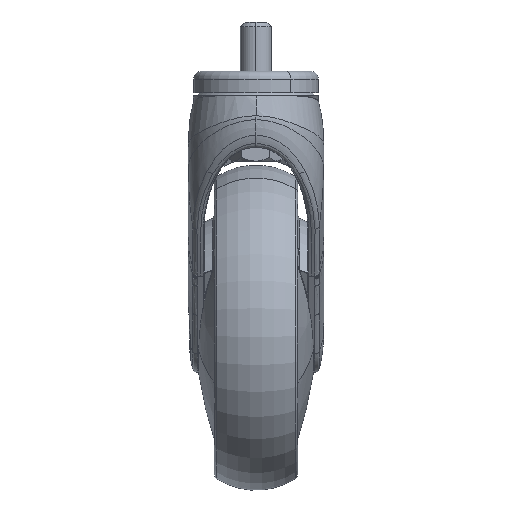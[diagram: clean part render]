
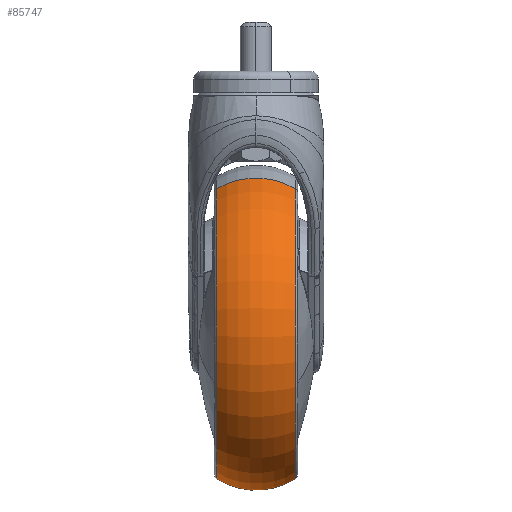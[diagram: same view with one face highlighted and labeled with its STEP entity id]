
A CAD part, left-side view. The second image highlights one B-rep face of the part: STEP entity #85747.
In plain terms, the highlighted toroidal (fillet/blend) face has major radius 34.5 mm and minor radius 28 mm.
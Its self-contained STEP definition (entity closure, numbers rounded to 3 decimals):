
#3506 = VERTEX_POINT ( 'NONE', #27585 ) ;
#3548 = EDGE_CURVE ( 'NONE', #3690, #3641, #27769, .T. ) ;
#3569 = EDGE_CURVE ( 'NONE', #3506, #3791, #27897, .T. ) ;
#3641 = VERTEX_POINT ( 'NONE', #27927 ) ;
#3690 = VERTEX_POINT ( 'NONE', #28011 ) ;
#3791 = VERTEX_POINT ( 'NONE', #28321 ) ;
#3796 = EDGE_CURVE ( 'NONE', #3690, #3506, #28442, .T. ) ;
#27585 = CARTESIAN_POINT ( 'NONE',  ( 54.541, 22.731, -100.503 ) ) ;
#27761 = AXIS2_PLACEMENT_3D ( 'NONE', #27905, #27892, #27890 ) ;
#27769 = CIRCLE ( 'NONE', #27761, 28. ) ;
#27850 = DIRECTION ( 'NONE',  ( -0.394, 0., 0.919 ) ) ;
#27852 = DIRECTION ( 'NONE',  ( -0.919, 0., -0.394 ) ) ;
#27854 = AXIS2_PLACEMENT_3D ( 'NONE', #27872, #27852, #27850 ) ;
#27872 = CARTESIAN_POINT ( 'NONE',  ( 45.246, 7.654, -78.817 ) ) ;
#27890 = DIRECTION ( 'NONE',  ( 0.394, 0., -0.919 ) ) ;
#27892 = DIRECTION ( 'NONE',  ( 0.919, 0., 0.394 ) ) ;
#27897 = CIRCLE ( 'NONE', #27854, 28. ) ;
#27905 = CARTESIAN_POINT ( 'NONE',  ( 18.063, 7.654, -15.397 ) ) ;
#27927 = CARTESIAN_POINT ( 'NONE',  ( 8.768, -7.423, 6.289 ) ) ;
#28011 = CARTESIAN_POINT ( 'NONE',  ( 8.768, 22.731, 6.289 ) ) ;
#28321 = CARTESIAN_POINT ( 'NONE',  ( 54.541, -7.423, -100.503 ) ) ;
#28431 = DIRECTION ( 'NONE',  ( 0.394, 0., -0.919 ) ) ;
#28433 = DIRECTION ( 'NONE',  ( 0., -1., 0. ) ) ;
#28434 = CARTESIAN_POINT ( 'NONE',  ( 31.655, 22.731, -47.107 ) ) ;
#28436 = AXIS2_PLACEMENT_3D ( 'NONE', #28434, #28433, #28431 ) ;
#28442 = CIRCLE ( 'NONE', #28436, 58.094 ) ;
#44835 = DIRECTION ( 'NONE',  ( 0.394, 0., -0.919 ) ) ;
#44837 = DIRECTION ( 'NONE',  ( 0., -1., 0. ) ) ;
#44839 = CARTESIAN_POINT ( 'NONE',  ( 31.655, -7.423, -47.107 ) ) ;
#44840 = AXIS2_PLACEMENT_3D ( 'NONE', #44839, #44837, #44835 ) ;
#44842 = CIRCLE ( 'NONE', #44840, 58.094 ) ;
#46472 = TOROIDAL_SURFACE ( 'NONE', #46559, 34.5, 28. ) ;
#46511 = FACE_OUTER_BOUND ( 'NONE', #78490, .T. ) ;
#46553 = DIRECTION ( 'NONE',  ( 0.394, 0., -0.919 ) ) ;
#46554 = DIRECTION ( 'NONE',  ( 0., -1., 0. ) ) ;
#46555 = CARTESIAN_POINT ( 'NONE',  ( 31.655, 7.654, -47.107 ) ) ;
#46559 = AXIS2_PLACEMENT_3D ( 'NONE', #46555, #46554, #46553 ) ;
#77873 = ORIENTED_EDGE ( 'NONE', *, *, #3796, .T. ) ;
#78063 = EDGE_CURVE ( 'NONE', #3641, #3791, #44842, .T. ) ;
#78490 = EDGE_LOOP ( 'NONE', ( #85787, #77873, #85646, #85416 ) ) ;
#85416 = ORIENTED_EDGE ( 'NONE', *, *, #78063, .F. ) ;
#85646 = ORIENTED_EDGE ( 'NONE', *, *, #3569, .T. ) ;
#85747 = ADVANCED_FACE ( 'NONE', ( #46511 ), #46472, .T. ) ;
#85787 = ORIENTED_EDGE ( 'NONE', *, *, #3548, .F. ) ;
